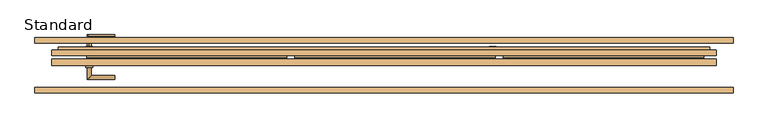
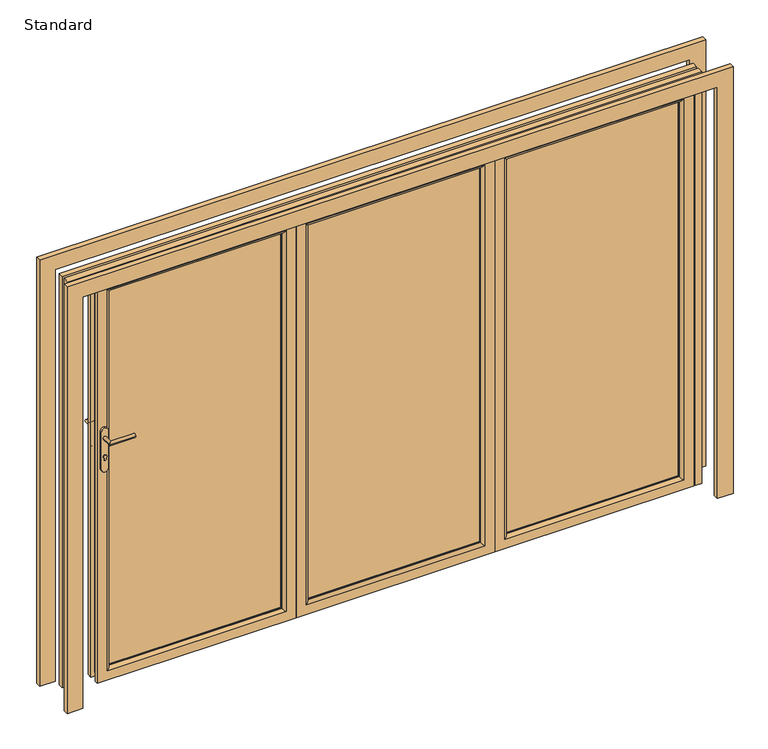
"""IFC4 building model written with IfcOpenShell, lengths in millimetres: door geometry, SMARTS_Visofold1000 : Standard."""

from ifc_helpers import new_model, si_unit, point, frame, frame_2d, origin, place, context, project, spatial, polyline, circle_curve, ellipse_curve, trimmed, segment, composite_curve, outline, extrude, faceted_brep, source, transform, mapped, element, save
from ifc_brep_helpers import plane_surface, cylinder_surface, advanced_brep


def standard_790c8caa(model_context):
    return source(origin(), model_context, "Body", "SolidModel", [
        extrude(outline(composite_curve([segment(polyline([(1228.0996413, 474.0), (1040.0996413, 474.0)]), True, "CONTINUOUS"), segment(trimmed(circle_curve(frame_2d((1040.0996413, 490.0)), 16.0), [point((1040.0996413, 474.0))], [point((1040.0996413, 506.0))], False, "CARTESIAN"), True, "CONTINUOUS"), segment(polyline([(1040.0996413, 506.0), (1228.0996413, 506.0)]), True, "CONTINUOUS"), segment(trimmed(circle_curve(frame_2d((1228.0996413, 490.0)), 16.0), [point((1228.0996413, 506.0))], [point((1228.0996413, 474.0))], False, "CARTESIAN"), True, "CONTINUOUS")], self_intersect=False)), frame((0.0, 75.0, 0.0), z_axis=(0.0, 1.0, 0.0), x_axis=(0.0, 0.0, 1.0)), (0.0, 0.0, 1.0), 10.0),
        extrude(outline(polyline([(45.0, 475.0), (1955.0, 475.0), (1955.0, -375.0), (45.0, -375.0), (45.0, 475.0)]), holes=[polyline([(1939.5, 459.5), (60.5, 459.5), (60.5, -359.5), (1939.5, -359.5), (1939.5, 459.5)])]), frame((0.0, 17.4, 0.0), z_axis=(0.0, 1.0, 0.0), x_axis=(0.0, 0.0, 1.0)), (0.0, 0.0, 1.0), 35.0),
        faceted_brep([(520.0, 74.4, 0.0), (520.0, 74.4, 2000.0), (520.0, 52.4, 2000.0), (520.0, 52.4, 0.0), (459.5, 52.4, 60.5), (459.5, 52.4, 1939.5), (459.5, 74.4, 1939.5), (459.5, 74.4, 60.5), (-420.0, 74.4, 2000.0), (-420.0, 52.4, 2000.0), (-359.5, 52.4, 1939.5), (-359.5, 74.4, 1939.5), (-420.0, 74.4, 0.0), (-420.0, 52.4, 0.0), (-359.5, 52.4, 60.5), (-359.5, 74.4, 60.5), (502.1308519, 34.8, 17.8691481), (502.1308519, 34.8, 1982.1308519), (-402.1308519, 34.8, 1982.1308519), (-402.1308519, 34.8, 17.8691481), (475.0, 34.8, 1955.0), (475.0, 34.8, 45.0), (-375.0, 34.8, 45.0), (-375.0, 34.8, 1955.0), (502.1308519, 52.4, 17.8691481), (502.1308519, 52.4, 1982.1308519), (475.0, 52.4, 1955.0), (475.0, 52.4, 45.0), (-402.1308519, 52.4, 1982.1308519), (-375.0, 52.4, 1955.0), (-402.1308519, 52.4, 17.8691481), (-375.0, 52.4, 45.0)], [[[0, 1, 2, 3]], [[4, 5, 6, 7]], [[1, 8, 9, 2]], [[5, 10, 11, 6]], [[8, 12, 13, 9]], [[10, 14, 15, 11]], [[12, 0, 3, 13]], [[1, 0, 12, 8], [7, 6, 11, 15]], [[14, 4, 7, 15]], [[16, 17, 18, 19], [20, 21, 22, 23]], [[24, 25, 17, 16]], [[21, 20, 26, 27]], [[25, 28, 18, 17]], [[20, 23, 29, 26]], [[28, 30, 19, 18]], [[23, 22, 31, 29]], [[30, 24, 16, 19]], [[3, 2, 9, 13], [25, 24, 30, 28]], [[27, 26, 29, 31], [5, 4, 14, 10]], [[22, 21, 27, 31]]]),
        advanced_brep(
        [(459.5, 13.3, 60.5), (459.5, 13.3, 1939.5), (459.5, 17.4, 1939.5), (459.5, 17.4, 60.5), (520.0, 17.4, 0.0), (520.0, 17.4, 2000.0), (520.0, 0.0, 2000.0), (520.0, 0.0, 0.0), (-359.5, 13.3, 1939.5), (-359.5, 17.4, 1939.5), (-420.0, 17.4, 2000.0), (-420.0, 0.0, 2000.0), (-359.5, 13.3, 60.5), (-359.5, 17.4, 60.5), (-420.0, 17.4, 0.0), (-420.0, 0.0, 0.0), (472.8, 0.0, 1952.8), (472.8, 0.0, 47.2), (-372.8, 0.0, 47.2), (-372.8, 0.0, 1952.8), (502.1308519, 34.8, 17.8691481), (502.1308519, 34.8, 1982.1308519), (502.1308519, 17.4, 1982.1308519), (502.1308519, 17.4, 17.8691481), (-402.1308519, 34.8, 1982.1308519), (-402.1308519, 17.4, 1982.1308519), (-402.1308519, 34.8, 17.8691481), (-402.1308519, 17.4, 17.8691481), (475.0, 17.4, 45.0), (475.0, 17.4, 1955.0), (475.0, 34.8, 1955.0), (475.0, 34.8, 45.0), (-375.0, 17.4, 1955.0), (-375.0, 34.8, 1955.0), (-375.0, 17.4, 45.0), (-375.0, 34.8, 45.0)],
        [
            (0, 1),
            (1, 2),
            (2, 3),
            (3, 0),
            (4, 5),
            (5, 6),
            (6, 7),
            (7, 4),
            (1, 8),
            (8, 9),
            (9, 2),
            (5, 10),
            (10, 11),
            (11, 6),
            (8, 12),
            (12, 13),
            (13, 9),
            (10, 14),
            (14, 15),
            (15, 11),
            (12, 0),
            (3, 13),
            (15, 7),
            (16, 17),
            (17, 18),
            (18, 19),
            (19, 16),
            (14, 4),
            (16, 1, ellipse_curve(frame((472.8, 13.3, 1952.8), z_axis=(0.7071067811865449, 0.0, -0.7071067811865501), x_axis=(-0.7071067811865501, 0.0, -0.7071067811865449)), 18.8090404, 13.3)),
            (0, 17, ellipse_curve(frame((472.8, 13.3, 47.2), z_axis=(0.70710678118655, 0.0, 0.707106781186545), x_axis=(0.707106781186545, 0.0, -0.7071067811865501)), 18.8090404, 13.3)),
            (19, 8, ellipse_curve(frame((-372.8, 13.3, 1952.8), z_axis=(0.7071067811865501, 0.0, 0.7071067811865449), x_axis=(0.7071067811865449, 0.0, -0.7071067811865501)), 18.8090404, 13.3)),
            (18, 12, ellipse_curve(frame((-372.8, 13.3, 47.2), z_axis=(-0.7071067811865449, 0.0, 0.70710678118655), x_axis=(0.7071067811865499, 0.0, 0.707106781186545)), 18.8090404, 13.3)),
            (20, 21),
            (21, 22),
            (22, 23),
            (23, 20),
            (21, 24),
            (24, 25),
            (25, 22),
            (24, 26),
            (26, 27),
            (27, 25),
            (27, 23),
            (26, 20),
            (28, 29),
            (29, 30),
            (30, 31),
            (31, 28),
            (29, 32),
            (32, 33),
            (33, 30),
            (32, 34),
            (34, 35),
            (35, 33),
            (34, 28),
            (31, 35),
        ],
        [
            plane_surface(frame((459.5, 17.4, 60.5), z_axis=(-1.0, 0.0, 0.0), x_axis=(0.0, 0.0, 1.0))),
            plane_surface(frame((520.0, 0.0, 0.0), z_axis=(1.0, 0.0, 0.0), x_axis=(0.0, 0.0, 1.0))),
            plane_surface(frame((459.5, 17.4, 1939.5), z_axis=(0.0, 0.0, -1.0), x_axis=(-1.0, 0.0, 0.0))),
            plane_surface(frame((520.0, 0.0, 2000.0), z_axis=(0.0, 0.0, 1.0), x_axis=(-1.0, 0.0, 0.0))),
            plane_surface(frame((-359.5, 17.4, 1939.5), z_axis=(1.0, 0.0, 0.0), x_axis=(0.0, 0.0, -1.0))),
            plane_surface(frame((-420.0, 0.0, 2000.0), z_axis=(-1.0, 0.0, 0.0), x_axis=(0.0, 0.0, -1.0))),
            plane_surface(frame((-359.5, 17.4, 60.5), z_axis=(0.0, 0.0, 1.0), x_axis=(1.0, 0.0, 0.0))),
            plane_surface(frame((-372.8, 0.0, 47.2), z_axis=(0.0, -1.0, 0.0), x_axis=(1.0, 0.0, 0.0))),
            plane_surface(frame((-420.0, 0.0, 0.0), z_axis=(0.0, 0.0, -1.0), x_axis=(1.0, 0.0, 0.0))),
            cylinder_surface(frame((472.8, 13.3, 0.0), z_axis=(0.0, 0.0, -1.0), x_axis=(0.0, 1.0, 0.0)), 13.3),
            cylinder_surface(frame((520.0, 13.3, 1952.8), z_axis=(1.0, 0.0, 0.0), x_axis=(0.0, 1.0, 0.0)), 13.3),
            cylinder_surface(frame((-372.8, 13.3, 2000.0), z_axis=(0.0, 0.0, 1.0), x_axis=(0.0, 1.0, 0.0)), 13.3),
            cylinder_surface(frame((-420.0, 13.3, 47.2), z_axis=(-1.0, 0.0, 0.0), x_axis=(0.0, 1.0, 0.0)), 13.3),
            plane_surface(frame((502.1308519, 17.4, 17.8691481), z_axis=(1.0, 0.0, 0.0), x_axis=(0.0, 0.0, 1.0))),
            plane_surface(frame((502.1308519, 17.4, 1982.1308519), z_axis=(0.0, 0.0, 1.0), x_axis=(-1.0, 0.0, 0.0))),
            plane_surface(frame((-402.1308519, 17.4, 1982.1308519), z_axis=(-1.0, 0.0, 0.0), x_axis=(0.0, 0.0, -1.0))),
            plane_surface(frame((-420.0, 17.4, 0.0), z_axis=(0.0, 1.0, 0.0), x_axis=(1.0, 0.0, 0.0))),
            plane_surface(frame((-402.1308519, 17.4, 17.8691481), z_axis=(0.0, 0.0, -1.0), x_axis=(1.0, 0.0, 0.0))),
            plane_surface(frame((475.0, 34.8, 45.0), z_axis=(-1.0, 0.0, 0.0), x_axis=(0.0, 0.0, 1.0))),
            plane_surface(frame((475.0, 34.8, 1955.0), z_axis=(0.0, 0.0, -1.0), x_axis=(-1.0, 0.0, 0.0))),
            plane_surface(frame((-375.0, 34.8, 1955.0), z_axis=(1.0, 0.0, 0.0), x_axis=(0.0, 0.0, -1.0))),
            plane_surface(frame((-375.0, 34.8, 45.0), z_axis=(0.0, 0.0, 1.0), x_axis=(1.0, 0.0, 0.0))),
            plane_surface(frame((-375.0, 17.4, 45.0), z_axis=(0.0, 1.0, 0.0), x_axis=(1.0, 0.0, 0.0))),
            plane_surface(frame((-402.1308519, 34.8, 17.8691481), z_axis=(0.0, 1.0, 0.0), x_axis=(1.0, 0.0, 0.0))),
        ],
        [
            (0, [[1, 2, 3, 4]]),
            (1, [[5, 6, 7, 8]]),
            (2, [[9, 10, 11, -2]]),
            (3, [[12, 13, 14, -6]]),
            (4, [[15, 16, 17, -10]]),
            (5, [[18, 19, 20, -13]]),
            (6, [[21, -4, 22, -16]]),
            (7, [[-7, -14, -20, 23], [24, 25, 26, 27]]),
            (8, [[28, -8, -23, -19]]),
            (9, [[-24, 29, -1, 30]]),
            (10, [[-27, 31, -9, -29]]),
            (11, [[-26, 32, -15, -31]]),
            (12, [[-25, -30, -21, -32]]),
            (13, [[33, 34, 35, 36]]),
            (14, [[37, 38, 39, -34]]),
            (15, [[40, 41, 42, -38]]),
            (16, [[-5, -28, -18, -12], [-35, -39, -42, 43]]),
            (17, [[44, -36, -43, -41]]),
            (18, [[45, 46, 47, 48]]),
            (19, [[49, 50, 51, -46]]),
            (20, [[52, 53, 54, -50]]),
            (21, [[55, -48, 56, -53]]),
            (22, [[-45, -55, -52, -49], [-3, -11, -17, -22]]),
            (23, [[-33, -44, -40, -37], [-47, -51, -54, -56]]),
        ],
    ),
        extrude(outline(polyline([(459.5, 50.1484783), (459.5, 21.4), (-359.5, 21.4), (-359.5, 50.1484783), (459.5, 50.1484783)])), frame((0.0, 0.0, 60.5), z_axis=(0.0, 0.0, 1.0), x_axis=(1.0, 0.0, 0.0)), (0.0, 0.0, 1.0), 1879.0),
        advanced_brep(
        [(-1330.0, 75.0, 1232.5996413), (-1330.0, 75.0, 1215.5996413), (-1330.0, 130.0, 1215.5996413), (-1330.0, 130.0, 1232.5996413), (-1215.0, 130.0, 1232.5996413), (-1215.0, 130.0, 1215.5996413)],
        [
            (0, 1, circle_curve(frame((-1330.0, 75.0, 1224.0996413), z_axis=(0.0, -1.0, 0.0), x_axis=(0.0, 0.0, -1.0)), 8.5)),
            (1, 0, circle_curve(frame((-1330.0, 75.0, 1224.0996413), z_axis=(0.0, -1.0, 0.0), x_axis=(0.0, 0.0, -1.0)), 8.5)),
            (1, 2),
            (2, 3, ellipse_curve(frame((-1330.0, 130.0, 1224.0996413), z_axis=(-0.7071067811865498, -0.7071067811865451, 0.0), x_axis=(0.707106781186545, -0.70710678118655, 0.0)), 12.0208153, 8.5)),
            (3, 0),
            (3, 2, ellipse_curve(frame((-1330.0, 130.0, 1224.0996413), z_axis=(-0.7071067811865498, -0.7071067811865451, 0.0), x_axis=(0.707106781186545, -0.70710678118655, 0.0)), 12.0208153, 8.5)),
            (4, 5, circle_curve(frame((-1215.0, 130.0, 1224.0996413), z_axis=(1.0, 0.0, 0.0), x_axis=(0.0, 0.0, -1.0)), 8.5)),
            (5, 4, circle_curve(frame((-1215.0, 130.0, 1224.0996413), z_axis=(1.0, 0.0, 0.0), x_axis=(0.0, 0.0, -1.0)), 8.5)),
            (2, 5),
            (4, 3),
        ],
        [
            plane_surface(frame((-1330.0, 75.0, 1224.0996413), z_axis=(0.0, -1.0, 0.0), x_axis=(0.0, 0.0, -1.0))),
            cylinder_surface(frame((-1330.0, 75.0, 1224.0996413), z_axis=(0.0, -1.0, 0.0), x_axis=(0.0, 0.0, -1.0)), 8.5),
            plane_surface(frame((-1215.0, 130.0, 1224.0996413), z_axis=(1.0, 0.0, 0.0), x_axis=(0.0, 0.0, -1.0))),
            cylinder_surface(frame((-1330.0, 130.0, 1224.0996413), z_axis=(-1.0, 0.0, 0.0), x_axis=(0.0, 0.0, -1.0)), 8.5),
        ],
        [
            (0, [[1, 2]]),
            (1, [[-2, 3, 4, 5]]),
            (1, [[-1, -5, 6, -3]]),
            (2, [[7, 8]]),
            (3, [[-4, 9, -7, 10]]),
            (3, [[-6, -10, -8, -9]]),
        ],
    ),
        extrude(outline(composite_curve([segment(trimmed(circle_curve(frame_2d((1258.0996413, -1330.0)), 16.0), [point((1258.0996413, -1314.0))], [point((1258.0996413, -1346.0))], False, "CARTESIAN"), True, "CONTINUOUS"), segment(polyline([(1258.0996413, -1346.0), (1070.0996413, -1346.0)]), True, "CONTINUOUS"), segment(trimmed(circle_curve(frame_2d((1070.0996413, -1330.0)), 16.0), [point((1070.0996413, -1346.0))], [point((1070.0996413, -1314.0))], False, "CARTESIAN"), True, "CONTINUOUS"), segment(polyline([(1070.0996413, -1314.0), (1258.0996413, -1314.0)]), True, "CONTINUOUS")], self_intersect=False)), frame((0.0, 75.0, 0.0), z_axis=(0.0, 1.0, 0.0), x_axis=(0.0, 0.0, 1.0)), (0.0, 0.0, 1.0), 10.0),
        advanced_brep(
        [(-1321.5, 0.0, 1224.0996413), (-1338.5, 0.0, 1224.0996413), (-1321.5, -46.5, 1224.0996413), (-1338.5, -63.5, 1224.0996413), (-1215.0, -46.5, 1224.0996413), (-1215.0, -63.5, 1224.0996413)],
        [
            (0, 1, circle_curve(frame((-1330.0, 0.0, 1224.0996413), z_axis=(0.0, 1.0, 0.0), x_axis=(-1.0, 0.0, 0.0)), 8.5)),
            (1, 0, circle_curve(frame((-1330.0, 0.0, 1224.0996413), z_axis=(0.0, 1.0, 0.0), x_axis=(-1.0, 0.0, 0.0)), 8.5)),
            (0, 2),
            (2, 3, ellipse_curve(frame((-1330.0, -55.0, 1224.0996413), z_axis=(-0.7071067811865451, 0.7071067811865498, 0.0), x_axis=(0.7071067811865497, 0.7071067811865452, 0.0)), 12.0208153, 8.5)),
            (3, 1),
            (3, 2, ellipse_curve(frame((-1330.0, -55.0, 1224.0996413), z_axis=(-0.7071067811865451, 0.7071067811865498, 0.0), x_axis=(0.7071067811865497, 0.7071067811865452, 0.0)), 12.0208153, 8.5)),
            (4, 5, circle_curve(frame((-1215.0, -55.0, 1224.0996413), z_axis=(1.0, 0.0, 0.0), x_axis=(0.0, -1.0, 0.0)), 8.5)),
            (5, 4, circle_curve(frame((-1215.0, -55.0, 1224.0996413), z_axis=(1.0, 0.0, 0.0), x_axis=(0.0, -1.0, 0.0)), 8.5)),
            (2, 4),
            (5, 3),
        ],
        [
            plane_surface(frame((-1330.0, 0.0, 1224.0996413), z_axis=(0.0, 1.0, 0.0), x_axis=(0.0, 0.0, -1.0))),
            cylinder_surface(frame((-1330.0, 0.0, 1224.0996413), z_axis=(0.0, 1.0, 0.0), x_axis=(-1.0, 0.0, 0.0)), 8.5),
            plane_surface(frame((-1215.0, -55.0, 1224.0996413), z_axis=(1.0, 0.0, 0.0), x_axis=(0.0, 0.0, -1.0))),
            cylinder_surface(frame((-1330.0, -55.0, 1224.0996413), z_axis=(-1.0, 0.0, 0.0), x_axis=(0.0, -1.0, 0.0)), 8.5),
        ],
        [
            (0, [[1, 2]]),
            (1, [[-1, 3, 4, 5]]),
            (1, [[-2, -5, 6, -3]]),
            (2, [[7, 8]]),
            (3, [[-4, 9, -8, 10]]),
            (3, [[-6, -10, -7, -9]]),
        ],
    ),
        extrude(outline(composite_curve([segment(trimmed(circle_curve(frame_2d((1258.0996413, -1330.0)), 16.0), [point((1258.0996413, -1314.0))], [point((1258.0996413, -1346.0))], False, "CARTESIAN"), True, "CONTINUOUS"), segment(polyline([(1258.0996413, -1346.0), (1070.0996413, -1346.0)]), True, "CONTINUOUS"), segment(trimmed(circle_curve(frame_2d((1070.0996413, -1330.0)), 16.0), [point((1070.0996413, -1346.0))], [point((1070.0996413, -1314.0))], False, "CARTESIAN"), True, "CONTINUOUS"), segment(polyline([(1070.0996413, -1314.0), (1258.0996413, -1314.0)]), True, "CONTINUOUS")], self_intersect=False)), frame((0.0, -10.0, 0.0), z_axis=(0.0, 1.0, 0.0), x_axis=(0.0, 0.0, 1.0)), (0.0, 0.0, 1.0), 10.0),
        extrude(outline(composite_curve([segment(trimmed(circle_curve(frame_2d((1132.0996413, -1329.9428094)), 8.5), [point((1125.1769586, -1325.0106229))], [point((1125.27562, -1335.0106229))], False, "CARTESIAN"), True, "CONTINUOUS"), segment(polyline([(1125.27562, -1335.0106229), (1117.5996413, -1335.0106229)]), True, "CONTINUOUS"), segment(trimmed(circle_curve(frame_2d((1117.5996413, -1330.0106229)), 5.0), [point((1117.5996413, -1335.0106229))], [point((1117.5996413, -1325.0106229))], False, "CARTESIAN"), True, "CONTINUOUS"), segment(polyline([(1117.5996413, -1325.0106229), (1125.1769586, -1325.0106229)]), True, "CONTINUOUS")], self_intersect=False)), frame((0.0, 85.0, 0.0), z_axis=(0.0, 1.0, 0.0), x_axis=(0.0, 0.0, 1.0)), (0.0, 0.0, 1.0), 2.0),
        extrude(outline(composite_curve([segment(trimmed(circle_curve(frame_2d((1132.0996413, -1329.9428094)), 8.5), [point((1125.1769586, -1325.0106229))], [point((1125.27562, -1335.0106229))], False, "CARTESIAN"), True, "CONTINUOUS"), segment(polyline([(1125.27562, -1335.0106229), (1117.5996413, -1335.0106229)]), True, "CONTINUOUS"), segment(trimmed(circle_curve(frame_2d((1117.5996413, -1330.0106229)), 5.0), [point((1117.5996413, -1335.0106229))], [point((1117.5996413, -1325.0106229))], False, "CARTESIAN"), True, "CONTINUOUS"), segment(polyline([(1117.5996413, -1325.0106229), (1125.1769586, -1325.0106229)]), True, "CONTINUOUS")], self_intersect=False)), frame((0.0, -12.0, 0.0), z_axis=(0.0, 1.0, 0.0), x_axis=(0.0, 0.0, 1.0)), (0.0, 0.0, 1.0), 2.0),
        extrude(outline(polyline([(45.0, -1315.0), (45.0, -465.0), (1955.0, -465.0), (1955.0, -1315.0), (45.0, -1315.0)]), holes=[polyline([(1939.5, -1299.5), (1939.5, -480.5), (60.5, -480.5), (60.5, -1299.5), (1939.5, -1299.5)])]), frame((0.0, 17.4, 0.0), z_axis=(0.0, 1.0, 0.0), x_axis=(0.0, 0.0, 1.0)), (0.0, 0.0, 1.0), 35.0),
        faceted_brep([(-1360.0, 74.4, 0.0), (-1360.0, 52.4, 0.0), (-1360.0, 52.4, 2000.0), (-1360.0, 74.4, 2000.0), (-1299.5, 52.4, 60.5), (-1299.5, 74.4, 60.5), (-1299.5, 74.4, 1939.5), (-1299.5, 52.4, 1939.5), (-420.0, 52.4, 2000.0), (-420.0, 74.4, 2000.0), (-480.5, 74.4, 1939.5), (-480.5, 52.4, 1939.5), (-420.0, 52.4, 0.0), (-420.0, 74.4, 0.0), (-480.5, 74.4, 60.5), (-480.5, 52.4, 60.5), (-1342.1308519, 34.8, 17.8691481), (-437.8691481, 34.8, 17.8691481), (-437.8691481, 34.8, 1982.1308519), (-1342.1308519, 34.8, 1982.1308519), (-1315.0, 34.8, 1955.0), (-465.0, 34.8, 1955.0), (-465.0, 34.8, 45.0), (-1315.0, 34.8, 45.0), (-1342.1308519, 52.4, 17.8691481), (-1342.1308519, 52.4, 1982.1308519), (-1315.0, 52.4, 45.0), (-1315.0, 52.4, 1955.0), (-437.8691481, 52.4, 1982.1308519), (-465.0, 52.4, 1955.0), (-437.8691481, 52.4, 17.8691481), (-465.0, 52.4, 45.0)], [[[0, 1, 2, 3]], [[4, 5, 6, 7]], [[3, 2, 8, 9]], [[7, 6, 10, 11]], [[9, 8, 12, 13]], [[11, 10, 14, 15]], [[13, 12, 1, 0]], [[3, 9, 13, 0], [5, 14, 10, 6]], [[15, 14, 5, 4]], [[16, 17, 18, 19], [20, 21, 22, 23]], [[24, 16, 19, 25]], [[23, 26, 27, 20]], [[25, 19, 18, 28]], [[20, 27, 29, 21]], [[28, 18, 17, 30]], [[21, 29, 31, 22]], [[30, 17, 16, 24]], [[1, 12, 8, 2], [25, 28, 30, 24]], [[26, 31, 29, 27], [7, 11, 15, 4]], [[22, 31, 26, 23]]]),
        advanced_brep(
        [(-1299.5, 13.3, 60.5), (-1299.5, 17.4, 60.5), (-1299.5, 17.4, 1939.5), (-1299.5, 13.3, 1939.5), (-1360.0, 17.4, 0.0), (-1360.0, 0.0, 0.0), (-1360.0, 0.0, 2000.0), (-1360.0, 17.4, 2000.0), (-480.5, 17.4, 1939.5), (-480.5, 13.3, 1939.5), (-420.0, 0.0, 2000.0), (-420.0, 17.4, 2000.0), (-480.5, 17.4, 60.5), (-480.5, 13.3, 60.5), (-420.0, 0.0, 0.0), (-420.0, 17.4, 0.0), (-1312.8, 0.0, 1952.8), (-467.2, 0.0, 1952.8), (-467.2, 0.0, 47.2), (-1312.8, 0.0, 47.2), (-1342.1308519, 34.8, 17.8691481), (-1342.1308519, 17.4, 17.8691481), (-1342.1308519, 17.4, 1982.1308519), (-1342.1308519, 34.8, 1982.1308519), (-437.8691481, 17.4, 1982.1308519), (-437.8691481, 34.8, 1982.1308519), (-437.8691481, 17.4, 17.8691481), (-437.8691481, 34.8, 17.8691481), (-1315.0, 17.4, 45.0), (-1315.0, 34.8, 45.0), (-1315.0, 34.8, 1955.0), (-1315.0, 17.4, 1955.0), (-465.0, 34.8, 1955.0), (-465.0, 17.4, 1955.0), (-465.0, 34.8, 45.0), (-465.0, 17.4, 45.0)],
        [
            (0, 1),
            (1, 2),
            (2, 3),
            (3, 0),
            (4, 5),
            (5, 6),
            (6, 7),
            (7, 4),
            (2, 8),
            (8, 9),
            (9, 3),
            (6, 10),
            (10, 11),
            (11, 7),
            (8, 12),
            (12, 13),
            (13, 9),
            (10, 14),
            (14, 15),
            (15, 11),
            (12, 1),
            (0, 13),
            (5, 14),
            (16, 17),
            (17, 18),
            (18, 19),
            (19, 16),
            (4, 15),
            (19, 0, ellipse_curve(frame((-1312.8, 13.3, 47.2), z_axis=(-0.70710678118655, 0.0, 0.707106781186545), x_axis=(-0.707106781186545, 0.0, -0.7071067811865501)), 18.8090404, 13.3)),
            (3, 16, ellipse_curve(frame((-1312.8, 13.3, 1952.8), z_axis=(-0.7071067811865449, 0.0, -0.7071067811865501), x_axis=(0.7071067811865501, 0.0, -0.7071067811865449)), 18.8090404, 13.3)),
            (9, 17, ellipse_curve(frame((-467.2, 13.3, 1952.8), z_axis=(-0.7071067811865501, 0.0, 0.7071067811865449), x_axis=(-0.7071067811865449, 0.0, -0.7071067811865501)), 18.8090404, 13.3)),
            (13, 18, ellipse_curve(frame((-467.2, 13.3, 47.2), z_axis=(0.7071067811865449, 0.0, 0.70710678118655), x_axis=(-0.7071067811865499, 0.0, 0.707106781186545)), 18.8090404, 13.3)),
            (20, 21),
            (21, 22),
            (22, 23),
            (23, 20),
            (22, 24),
            (24, 25),
            (25, 23),
            (24, 26),
            (26, 27),
            (27, 25),
            (21, 26),
            (20, 27),
            (28, 29),
            (29, 30),
            (30, 31),
            (31, 28),
            (30, 32),
            (32, 33),
            (33, 31),
            (32, 34),
            (34, 35),
            (35, 33),
            (34, 29),
            (28, 35),
        ],
        [
            plane_surface(frame((-1299.5, 17.4, 60.5), z_axis=(1.0, 0.0, 0.0), x_axis=(0.0, 0.0, 1.0))),
            plane_surface(frame((-1360.0, 0.0, 0.0), z_axis=(-1.0, 0.0, 0.0), x_axis=(0.0, 0.0, 1.0))),
            plane_surface(frame((-1299.5, 17.4, 1939.5), z_axis=(0.0, 0.0, -1.0), x_axis=(1.0, 0.0, 0.0))),
            plane_surface(frame((-1360.0, 0.0, 2000.0), z_axis=(0.0, 0.0, 1.0), x_axis=(1.0, 0.0, 0.0))),
            plane_surface(frame((-480.5, 17.4, 1939.5), z_axis=(-1.0, 0.0, 0.0), x_axis=(0.0, 0.0, -1.0))),
            plane_surface(frame((-420.0, 0.0, 2000.0), z_axis=(1.0, 0.0, 0.0), x_axis=(0.0, 0.0, -1.0))),
            plane_surface(frame((-480.5, 17.4, 60.5), z_axis=(0.0, 0.0, 1.0), x_axis=(-1.0, 0.0, 0.0))),
            plane_surface(frame((-467.2, 0.0, 47.2), z_axis=(0.0, -1.0, 0.0), x_axis=(-1.0, 0.0, 0.0))),
            plane_surface(frame((-420.0, 0.0, 0.0), z_axis=(0.0, 0.0, -1.0), x_axis=(-1.0, 0.0, 0.0))),
            cylinder_surface(frame((-1312.8, 13.3, 0.0), z_axis=(0.0, 0.0, -1.0), x_axis=(0.0, 1.0, 0.0)), 13.3),
            cylinder_surface(frame((-1360.0, 13.3, 1952.8), z_axis=(-1.0, 0.0, 0.0), x_axis=(0.0, 1.0, 0.0)), 13.3),
            cylinder_surface(frame((-467.2, 13.3, 2000.0), z_axis=(0.0, 0.0, 1.0), x_axis=(0.0, 1.0, 0.0)), 13.3),
            cylinder_surface(frame((-420.0, 13.3, 47.2), z_axis=(1.0, 0.0, 0.0), x_axis=(0.0, 1.0, 0.0)), 13.3),
            plane_surface(frame((-1342.1308519, 17.4, 17.8691481), z_axis=(-1.0, 0.0, 0.0), x_axis=(0.0, 0.0, 1.0))),
            plane_surface(frame((-1342.1308519, 17.4, 1982.1308519), z_axis=(0.0, 0.0, 1.0), x_axis=(1.0, 0.0, 0.0))),
            plane_surface(frame((-437.8691481, 17.4, 1982.1308519), z_axis=(1.0, 0.0, 0.0), x_axis=(0.0, 0.0, -1.0))),
            plane_surface(frame((-420.0, 17.4, 0.0), z_axis=(0.0, 1.0, 0.0), x_axis=(-1.0, 0.0, 0.0))),
            plane_surface(frame((-437.8691481, 17.4, 17.8691481), z_axis=(0.0, 0.0, -1.0), x_axis=(-1.0, 0.0, 0.0))),
            plane_surface(frame((-1315.0, 34.8, 45.0), z_axis=(1.0, 0.0, 0.0), x_axis=(0.0, 0.0, 1.0))),
            plane_surface(frame((-1315.0, 34.8, 1955.0), z_axis=(0.0, 0.0, -1.0), x_axis=(1.0, 0.0, 0.0))),
            plane_surface(frame((-465.0, 34.8, 1955.0), z_axis=(-1.0, 0.0, 0.0), x_axis=(0.0, 0.0, -1.0))),
            plane_surface(frame((-465.0, 34.8, 45.0), z_axis=(0.0, 0.0, 1.0), x_axis=(-1.0, 0.0, 0.0))),
            plane_surface(frame((-465.0, 17.4, 45.0), z_axis=(0.0, 1.0, 0.0), x_axis=(-1.0, 0.0, 0.0))),
            plane_surface(frame((-437.8691481, 34.8, 17.8691481), z_axis=(0.0, 1.0, 0.0), x_axis=(-1.0, 0.0, 0.0))),
        ],
        [
            (0, [[1, 2, 3, 4]]),
            (1, [[5, 6, 7, 8]]),
            (2, [[-3, 9, 10, 11]]),
            (3, [[-7, 12, 13, 14]]),
            (4, [[-10, 15, 16, 17]]),
            (5, [[-13, 18, 19, 20]]),
            (6, [[-16, 21, -1, 22]]),
            (7, [[23, -18, -12, -6], [24, 25, 26, 27]]),
            (8, [[-19, -23, -5, 28]]),
            (9, [[29, -4, 30, -27]]),
            (10, [[-30, -11, 31, -24]]),
            (11, [[-31, -17, 32, -25]]),
            (12, [[-32, -22, -29, -26]]),
            (13, [[33, 34, 35, 36]]),
            (14, [[-35, 37, 38, 39]]),
            (15, [[-38, 40, 41, 42]]),
            (16, [[-14, -20, -28, -8], [43, -40, -37, -34]]),
            (17, [[-41, -43, -33, 44]]),
            (18, [[45, 46, 47, 48]]),
            (19, [[-47, 49, 50, 51]]),
            (20, [[-50, 52, 53, 54]]),
            (21, [[-53, 55, -45, 56]]),
            (22, [[-51, -54, -56, -48], [-21, -15, -9, -2]]),
            (23, [[-39, -42, -44, -36], [-55, -52, -49, -46]]),
        ],
    ),
        extrude(outline(polyline([(-1299.5, 50.1484783), (-480.5, 50.1484783), (-480.5, 21.4), (-1299.5, 21.4), (-1299.5, 50.1484783)])), frame((0.0, 0.0, 60.5), z_axis=(0.0, 0.0, 1.0), x_axis=(1.0, 0.0, 0.0)), (0.0, 0.0, 1.0), 1879.0),
        extrude(outline(polyline([(45.0, 565.0), (45.0, 1415.0), (1955.0, 1415.0), (1955.0, 565.0), (45.0, 565.0)]), holes=[polyline([(1939.5, 580.5), (1939.5, 1399.5), (60.5, 1399.5), (60.5, 580.5), (1939.5, 580.5)])]), frame((0.0, 17.4, 0.0), z_axis=(0.0, 1.0, 0.0), x_axis=(0.0, 0.0, 1.0)), (0.0, 0.0, 1.0), 35.0),
        faceted_brep([(520.0, 74.4, 0.0), (520.0, 52.4, 0.0), (520.0, 52.4, 2000.0), (520.0, 74.4, 2000.0), (580.5, 52.4, 60.5), (580.5, 74.4, 60.5), (580.5, 74.4, 1939.5), (580.5, 52.4, 1939.5), (1460.0, 74.4, 0.0), (1460.0, 52.4, 0.0), (1460.0, 52.4, 2000.0), (1460.0, 74.4, 2000.0), (1399.5, 74.4, 1939.5), (1399.5, 52.4, 1939.5), (1399.5, 74.4, 60.5), (1399.5, 52.4, 60.5), (537.8691481, 34.8, 17.8691481), (1442.1308519, 34.8, 17.8691481), (1442.1308519, 34.8, 1982.1308519), (537.8691481, 34.8, 1982.1308519), (565.0, 34.8, 1955.0), (1415.0, 34.8, 1955.0), (1415.0, 34.8, 45.0), (565.0, 34.8, 45.0), (537.8691481, 52.4, 17.8691481), (537.8691481, 52.4, 1982.1308519), (565.0, 52.4, 45.0), (565.0, 52.4, 1955.0), (1442.1308519, 52.4, 1982.1308519), (1415.0, 52.4, 1955.0), (1442.1308519, 52.4, 17.8691481), (1415.0, 52.4, 45.0)], [[[0, 1, 2, 3]], [[4, 5, 6, 7]], [[8, 9, 1, 0]], [[3, 2, 10, 11]], [[7, 6, 12, 13]], [[11, 10, 9, 8]], [[13, 12, 14, 15]], [[3, 11, 8, 0], [5, 14, 12, 6]], [[15, 14, 5, 4]], [[16, 17, 18, 19], [20, 21, 22, 23]], [[24, 16, 19, 25]], [[23, 26, 27, 20]], [[25, 19, 18, 28]], [[20, 27, 29, 21]], [[28, 18, 17, 30]], [[21, 29, 31, 22]], [[30, 17, 16, 24]], [[1, 9, 10, 2], [25, 28, 30, 24]], [[26, 31, 29, 27], [7, 13, 15, 4]], [[22, 31, 26, 23]]]),
        advanced_brep(
        [(580.5, 13.3, 60.5), (580.5, 17.4, 60.5), (580.5, 17.4, 1939.5), (580.5, 13.3, 1939.5), (520.0, 17.4, 0.0), (520.0, 0.0, 0.0), (520.0, 0.0, 2000.0), (520.0, 17.4, 2000.0), (1399.5, 17.4, 1939.5), (1399.5, 13.3, 1939.5), (1460.0, 0.0, 2000.0), (1460.0, 17.4, 2000.0), (1399.5, 17.4, 60.5), (1399.5, 13.3, 60.5), (1460.0, 0.0, 0.0), (1460.0, 17.4, 0.0), (567.2, 0.0, 1952.8), (1412.8, 0.0, 1952.8), (1412.8, 0.0, 47.2), (567.2, 0.0, 47.2), (537.8691481, 34.8, 17.8691481), (537.8691481, 17.4, 17.8691481), (537.8691481, 17.4, 1982.1308519), (537.8691481, 34.8, 1982.1308519), (1442.1308519, 17.4, 1982.1308519), (1442.1308519, 34.8, 1982.1308519), (1442.1308519, 17.4, 17.8691481), (1442.1308519, 34.8, 17.8691481), (565.0, 17.4, 45.0), (565.0, 34.8, 45.0), (565.0, 34.8, 1955.0), (565.0, 17.4, 1955.0), (1415.0, 34.8, 1955.0), (1415.0, 17.4, 1955.0), (1415.0, 34.8, 45.0), (1415.0, 17.4, 45.0)],
        [
            (0, 1),
            (1, 2),
            (2, 3),
            (3, 0),
            (4, 5),
            (5, 6),
            (6, 7),
            (7, 4),
            (2, 8),
            (8, 9),
            (9, 3),
            (6, 10),
            (10, 11),
            (11, 7),
            (8, 12),
            (12, 13),
            (13, 9),
            (10, 14),
            (14, 15),
            (15, 11),
            (12, 1),
            (0, 13),
            (5, 14),
            (16, 17),
            (17, 18),
            (18, 19),
            (19, 16),
            (4, 15),
            (19, 0, ellipse_curve(frame((567.2, 13.3, 47.2), z_axis=(-0.70710678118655, 0.0, 0.707106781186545), x_axis=(-0.707106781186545, 0.0, -0.7071067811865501)), 18.8090404, 13.3)),
            (3, 16, ellipse_curve(frame((567.2, 13.3, 1952.8), z_axis=(-0.7071067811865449, 0.0, -0.7071067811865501), x_axis=(0.7071067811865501, 0.0, -0.7071067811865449)), 18.8090404, 13.3)),
            (9, 17, ellipse_curve(frame((1412.8, 13.3, 1952.8), z_axis=(-0.7071067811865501, 0.0, 0.7071067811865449), x_axis=(-0.7071067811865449, 0.0, -0.7071067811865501)), 18.8090404, 13.3)),
            (13, 18, ellipse_curve(frame((1412.8, 13.3, 47.2), z_axis=(0.7071067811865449, 0.0, 0.70710678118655), x_axis=(-0.7071067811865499, 0.0, 0.707106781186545)), 18.8090404, 13.3)),
            (20, 21),
            (21, 22),
            (22, 23),
            (23, 20),
            (22, 24),
            (24, 25),
            (25, 23),
            (24, 26),
            (26, 27),
            (27, 25),
            (21, 26),
            (20, 27),
            (28, 29),
            (29, 30),
            (30, 31),
            (31, 28),
            (30, 32),
            (32, 33),
            (33, 31),
            (32, 34),
            (34, 35),
            (35, 33),
            (34, 29),
            (28, 35),
        ],
        [
            plane_surface(frame((580.5, 17.4, 60.5), z_axis=(1.0, 0.0, 0.0), x_axis=(0.0, 0.0, 1.0))),
            plane_surface(frame((520.0, 0.0, 0.0), z_axis=(-1.0, 0.0, 0.0), x_axis=(0.0, 0.0, 1.0))),
            plane_surface(frame((580.5, 17.4, 1939.5), z_axis=(0.0, 0.0, -1.0), x_axis=(1.0, 0.0, 0.0))),
            plane_surface(frame((520.0, 0.0, 2000.0), z_axis=(0.0, 0.0, 1.0), x_axis=(1.0, 0.0, 0.0))),
            plane_surface(frame((1399.5, 17.4, 1939.5), z_axis=(-1.0, 0.0, 0.0), x_axis=(0.0, 0.0, -1.0))),
            plane_surface(frame((1460.0, 0.0, 2000.0), z_axis=(1.0, 0.0, 0.0), x_axis=(0.0, 0.0, -1.0))),
            plane_surface(frame((1399.5, 17.4, 60.5), z_axis=(0.0, 0.0, 1.0), x_axis=(-1.0, 0.0, 0.0))),
            plane_surface(frame((1412.8, 0.0, 47.2), z_axis=(0.0, -1.0, 0.0), x_axis=(-1.0, 0.0, 0.0))),
            plane_surface(frame((1460.0, 0.0, 0.0), z_axis=(0.0, 0.0, -1.0), x_axis=(-1.0, 0.0, 0.0))),
            cylinder_surface(frame((567.2, 13.3, 0.0), z_axis=(0.0, 0.0, -1.0), x_axis=(0.0, 1.0, 0.0)), 13.3),
            cylinder_surface(frame((520.0, 13.3, 1952.8), z_axis=(-1.0, 0.0, 0.0), x_axis=(0.0, 1.0, 0.0)), 13.3),
            cylinder_surface(frame((1412.8, 13.3, 2000.0), z_axis=(0.0, 0.0, 1.0), x_axis=(0.0, 1.0, 0.0)), 13.3),
            cylinder_surface(frame((1460.0, 13.3, 47.2), z_axis=(1.0, 0.0, 0.0), x_axis=(0.0, 1.0, 0.0)), 13.3),
            plane_surface(frame((537.8691481, 17.4, 17.8691481), z_axis=(-1.0, 0.0, 0.0), x_axis=(0.0, 0.0, 1.0))),
            plane_surface(frame((537.8691481, 17.4, 1982.1308519), z_axis=(0.0, 0.0, 1.0), x_axis=(1.0, 0.0, 0.0))),
            plane_surface(frame((1442.1308519, 17.4, 1982.1308519), z_axis=(1.0, 0.0, 0.0), x_axis=(0.0, 0.0, -1.0))),
            plane_surface(frame((1460.0, 17.4, 0.0), z_axis=(0.0, 1.0, 0.0), x_axis=(-1.0, 0.0, 0.0))),
            plane_surface(frame((1442.1308519, 17.4, 17.8691481), z_axis=(0.0, 0.0, -1.0), x_axis=(-1.0, 0.0, 0.0))),
            plane_surface(frame((565.0, 34.8, 45.0), z_axis=(1.0, 0.0, 0.0), x_axis=(0.0, 0.0, 1.0))),
            plane_surface(frame((565.0, 34.8, 1955.0), z_axis=(0.0, 0.0, -1.0), x_axis=(1.0, 0.0, 0.0))),
            plane_surface(frame((1415.0, 34.8, 1955.0), z_axis=(-1.0, 0.0, 0.0), x_axis=(0.0, 0.0, -1.0))),
            plane_surface(frame((1415.0, 34.8, 45.0), z_axis=(0.0, 0.0, 1.0), x_axis=(-1.0, 0.0, 0.0))),
            plane_surface(frame((1415.0, 17.4, 45.0), z_axis=(0.0, 1.0, 0.0), x_axis=(-1.0, 0.0, 0.0))),
            plane_surface(frame((1442.1308519, 34.8, 17.8691481), z_axis=(0.0, 1.0, 0.0), x_axis=(-1.0, 0.0, 0.0))),
        ],
        [
            (0, [[1, 2, 3, 4]]),
            (1, [[5, 6, 7, 8]]),
            (2, [[-3, 9, 10, 11]]),
            (3, [[-7, 12, 13, 14]]),
            (4, [[-10, 15, 16, 17]]),
            (5, [[-13, 18, 19, 20]]),
            (6, [[-16, 21, -1, 22]]),
            (7, [[23, -18, -12, -6], [24, 25, 26, 27]]),
            (8, [[-19, -23, -5, 28]]),
            (9, [[29, -4, 30, -27]]),
            (10, [[-30, -11, 31, -24]]),
            (11, [[-31, -17, 32, -25]]),
            (12, [[-32, -22, -29, -26]]),
            (13, [[33, 34, 35, 36]]),
            (14, [[-35, 37, 38, 39]]),
            (15, [[-38, 40, 41, 42]]),
            (16, [[-14, -20, -28, -8], [43, -40, -37, -34]]),
            (17, [[-41, -43, -33, 44]]),
            (18, [[45, 46, 47, 48]]),
            (19, [[-47, 49, 50, 51]]),
            (20, [[-50, 52, 53, 54]]),
            (21, [[-53, 55, -45, 56]]),
            (22, [[-51, -54, -56, -48], [-21, -15, -9, -2]]),
            (23, [[-39, -42, -44, -36], [-55, -52, -49, -46]]),
        ],
    ),
        extrude(outline(polyline([(580.5, 50.1484783), (1399.5, 50.1484783), (1399.5, 21.4), (580.5, 21.4), (580.5, 50.1484783)])), frame((0.0, 0.0, 60.5), z_axis=(0.0, 0.0, 1.0), x_axis=(1.0, 0.0, 0.0)), (0.0, 0.0, 1.0), 1879.0),
        extrude(outline(polyline([(2058.6516063, -1500.0), (2058.6516063, 1500.0), (0.0, 1500.0), (0.0, 1575.0), (2133.6516063, 1575.0), (2133.6516063, -1575.0), (0.0, -1575.0), (0.0, -1500.0), (2058.6516063, -1500.0)])), frame((0.0, 100.0, 0.0), z_axis=(0.0, 1.0, 0.0), x_axis=(0.0, 0.0, 1.0)), (0.0, 0.0, 1.0), 25.0),
        extrude(outline(polyline([(2133.6516063, -1575.0), (0.0, -1575.0), (0.0, -1500.0), (2058.6516063, -1500.0), (2058.6516063, 1500.0), (0.0, 1500.0), (0.0, 1575.0), (2133.6516063, 1575.0), (2133.6516063, -1575.0)])), frame((0.0, -125.0, 0.0), z_axis=(0.0, 1.0, 0.0), x_axis=(0.0, 0.0, 1.0)), (0.0, 0.0, 1.0), 25.0),
        extrude(outline(polyline([(0.0, 1468.8), (0.0, 1500.0), (2058.6516063, 1500.0), (2058.6516063, -1500.0), (0.0, -1500.0), (0.0, -1468.8), (2027.4516063, -1468.8), (2027.4516063, 1468.8), (0.0, 1468.8)])), frame((0.0, 0.0, 0.0), z_axis=(0.0, 1.0, 0.0), x_axis=(0.0, 0.0, 1.0)), (0.0, 0.0, 1.0), 29.65),
        faceted_brep([(1500.0, 44.85, 0.0), (1468.8, 44.85, 0.0), (1468.8, 77.4, 0.0), (1448.3, 77.4, 0.0), (1448.3, 81.9, 0.0), (1470.6, 81.9, 0.0), (1470.6, 70.0, 0.0), (1500.0, 70.0, 0.0), (1500.0, 44.85, 2058.6516063), (-1500.0, 44.85, 2058.6516063), (-1500.0, 44.85, 0.0), (-1468.8, 44.85, 0.0), (-1468.8, 44.85, 2027.4516063), (1468.8, 44.85, 2027.4516063), (1468.8, 77.4, 2027.4516063), (-1468.8, 77.4, 2027.4516063), (-1468.8, 77.4, 0.0), (-1448.3, 77.4, 0.0), (-1448.3, 77.4, 2006.9516063), (1448.3, 77.4, 2006.9516063), (1448.3, 81.9, 2006.9516063), (-1448.3, 81.9, 2006.9516063), (-1448.3, 81.9, 0.0), (-1470.6, 81.9, 0.0), (-1470.6, 81.9, 2029.2516063), (1470.6, 81.9, 2029.2516063), (1470.6, 70.0, 2029.2516063), (-1470.6, 70.0, 2029.2516063), (-1470.6, 70.0, 0.0), (-1500.0, 70.0, 0.0), (-1500.0, 70.0, 2058.6516063), (1500.0, 70.0, 2058.6516063)], [[[0, 1, 2, 3, 4, 5, 6, 7]], [[1, 0, 8, 9, 10, 11, 12, 13]], [[2, 1, 13, 14]], [[3, 2, 14, 15, 16, 17, 18, 19]], [[4, 3, 19, 20]], [[5, 4, 20, 21, 22, 23, 24, 25]], [[6, 5, 25, 26]], [[7, 6, 26, 27, 28, 29, 30, 31]], [[0, 7, 31, 8]], [[10, 29, 28, 23, 22, 17, 16, 11]], [[9, 30, 29, 10]], [[27, 24, 23, 28]], [[21, 18, 17, 22]], [[15, 12, 11, 16]], [[8, 31, 30, 9]], [[14, 13, 12, 15]], [[26, 25, 24, 27]], [[20, 19, 18, 21]]]),
    ])


if __name__ == "__main__":
    model = new_model("IFC4")
    model_context = context("Model", 3, world=origin())
    ifc_project = project(units=[si_unit("LENGTHUNIT", "METRE", prefix="MILLI")], contexts=[model_context])
    site = spatial("IfcSite", under=ifc_project)
    building = spatial("IfcBuilding", under=site)
    placement = place(None, origin())
    standard_shape = standard_790c8caa(model_context)
    element("IfcDoor", 1, ObjectType="SMARTS_Visofold1000 : Standard", at=placement, inside=building, context=model_context, shape_type="MappedRepresentation", body=[
        mapped(standard_shape, transform((0.0, 0.0, 0.0), x_axis=(1.0, 0.0, 0.0), y_axis=(0.0, 1.0, 0.0), z_axis=(0.0, 0.0, 1.0))),
    ])
    save(model, "model.ifc")
